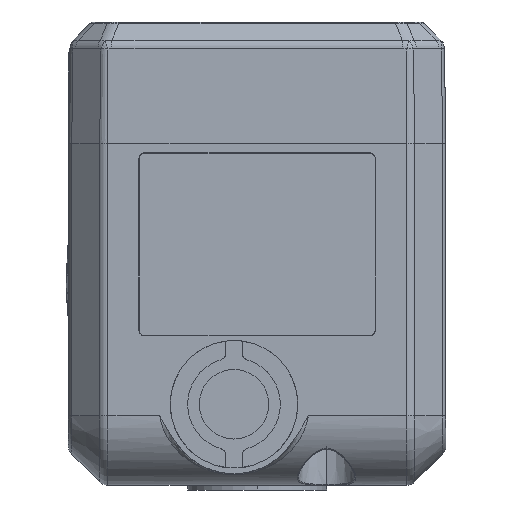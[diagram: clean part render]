
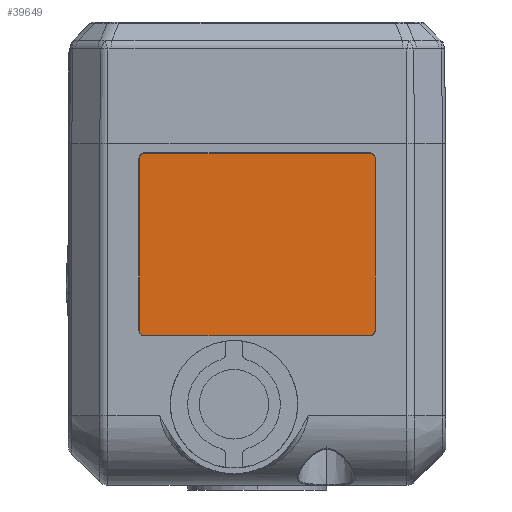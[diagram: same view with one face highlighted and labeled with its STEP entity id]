
A CAD part, left-side view. The second image highlights one B-rep face of the part: STEP entity #39649.
In plain terms, the highlighted planar face has unit normal (-1, 0, 0).
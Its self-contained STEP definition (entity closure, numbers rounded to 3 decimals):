
#27702=CARTESIAN_POINT('',(-25.05,9.7,-26.6));
#27703=DIRECTION('',(-1.,0.,0.));
#27704=DIRECTION('',(0.,1.,0.));
#27705=AXIS2_PLACEMENT_3D('',#27702,#27703,#27704);
#27707=DIRECTION('',(0.,0.,-1.));
#27708=VECTOR('',#27707,14.8);
#27709=CARTESIAN_POINT('',(-25.05,10.2,-11.8));
#27710=LINE('',#27709,#27708);
#27711=CARTESIAN_POINT('',(-25.05,9.7,-11.8));
#27712=DIRECTION('',(-1.,0.,0.));
#27713=DIRECTION('',(0.,0.,1.));
#27714=AXIS2_PLACEMENT_3D('',#27711,#27712,#27713);
#27716=DIRECTION('',(0.,1.,0.));
#27717=VECTOR('',#27716,19.4);
#27718=CARTESIAN_POINT('',(-25.05,-9.7,-11.3));
#27719=LINE('',#27718,#27717);
#27720=CARTESIAN_POINT('',(-25.05,-9.7,-11.8));
#27721=DIRECTION('',(-1.,0.,0.));
#27722=DIRECTION('',(0.,-1.,0.));
#27723=AXIS2_PLACEMENT_3D('',#27720,#27721,#27722);
#27725=DIRECTION('',(0.,0.,1.));
#27726=VECTOR('',#27725,14.8);
#27727=CARTESIAN_POINT('',(-25.05,-10.2,-26.6));
#27728=LINE('',#27727,#27726);
#27729=CARTESIAN_POINT('',(-25.05,-9.7,-26.6));
#27730=DIRECTION('',(-1.,0.,0.));
#27731=DIRECTION('',(0.,0.,-1.));
#27732=AXIS2_PLACEMENT_3D('',#27729,#27730,#27731);
#27734=DIRECTION('',(0.,-1.,0.));
#27735=VECTOR('',#27734,19.4);
#27736=CARTESIAN_POINT('',(-25.05,9.7,-27.1));
#27737=LINE('',#27736,#27735);
#28186=CARTESIAN_POINT('',(-25.05,10.2,-26.6));
#28187=CARTESIAN_POINT('',(-25.05,9.7,-27.1));
#28188=VERTEX_POINT('',#28186);
#28189=VERTEX_POINT('',#28187);
#28194=CARTESIAN_POINT('',(-25.05,9.7,-11.3));
#28195=CARTESIAN_POINT('',(-25.05,10.2,-11.8));
#28196=VERTEX_POINT('',#28194);
#28197=VERTEX_POINT('',#28195);
#28202=CARTESIAN_POINT('',(-25.05,-9.7,-27.1));
#28203=CARTESIAN_POINT('',(-25.05,-10.2,-26.6));
#28204=VERTEX_POINT('',#28202);
#28205=VERTEX_POINT('',#28203);
#28210=CARTESIAN_POINT('',(-25.05,-10.2,-11.8));
#28211=CARTESIAN_POINT('',(-25.05,-9.7,-11.3));
#28212=VERTEX_POINT('',#28210);
#28213=VERTEX_POINT('',#28211);
#39628=CARTESIAN_POINT('',(-25.05,0.,-40.));
#39629=DIRECTION('',(-1.,0.,0.));
#39630=DIRECTION('',(0.,0.,-1.));
#39631=AXIS2_PLACEMENT_3D('',#39628,#39629,#39630);
#39632=PLANE('',#39631);
#39634=ORIENTED_EDGE('',*,*,#39633,.F.);
#39636=ORIENTED_EDGE('',*,*,#39635,.F.);
#39637=ORIENTED_EDGE('',*,*,#39619,.F.);
#39638=ORIENTED_EDGE('',*,*,#39609,.F.);
#39640=ORIENTED_EDGE('',*,*,#39639,.F.);
#39642=ORIENTED_EDGE('',*,*,#39641,.F.);
#39644=ORIENTED_EDGE('',*,*,#39643,.F.);
#39646=ORIENTED_EDGE('',*,*,#39645,.F.);
#39647=EDGE_LOOP('',(#39634,#39636,#39637,#39638,#39640,#39642,#39644,#39646));
#39648=FACE_OUTER_BOUND('',#39647,.F.);
#39649=ADVANCED_FACE('',(#39648),#39632,.T.);
#27706=CIRCLE('',#27705,0.5);
#27715=CIRCLE('',#27714,0.5);
#27724=CIRCLE('',#27723,0.5);
#27733=CIRCLE('',#27732,0.5);
#39609=EDGE_CURVE('',#28213,#28196,#27719,.T.);
#39619=EDGE_CURVE('',#28196,#28197,#27715,.T.);
#39633=EDGE_CURVE('',#28188,#28189,#27706,.T.);
#39635=EDGE_CURVE('',#28197,#28188,#27710,.T.);
#39639=EDGE_CURVE('',#28212,#28213,#27724,.T.);
#39641=EDGE_CURVE('',#28205,#28212,#27728,.T.);
#39643=EDGE_CURVE('',#28204,#28205,#27733,.T.);
#39645=EDGE_CURVE('',#28189,#28204,#27737,.T.);
